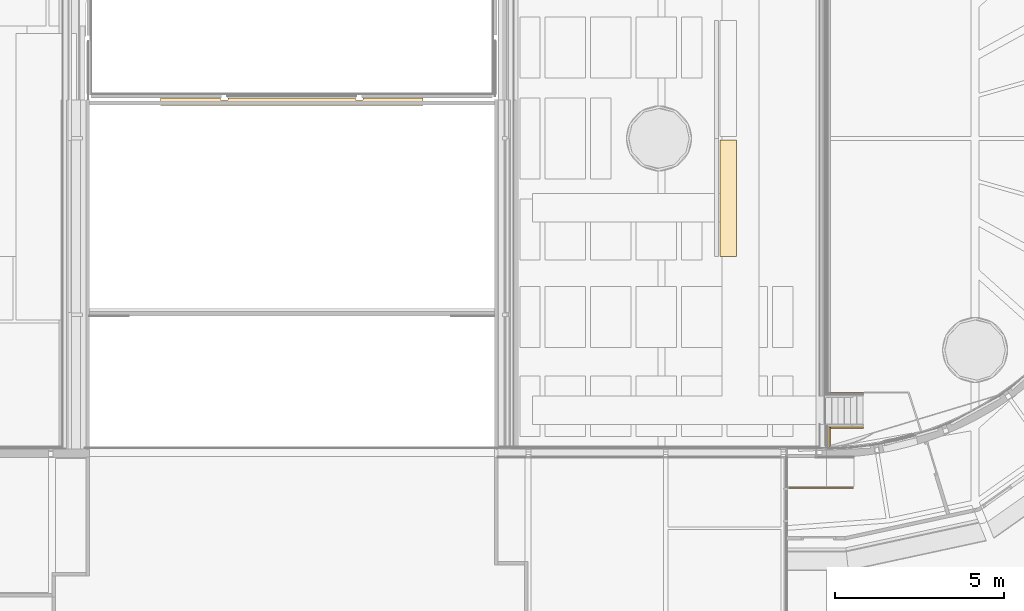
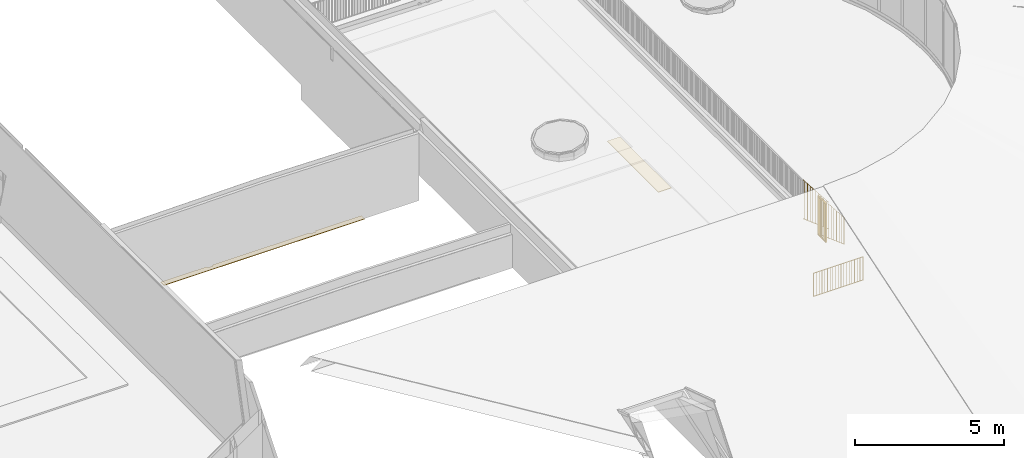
# One storey, part 56 of 66: 4 railings, 2 coverings.
"""IFC2X3 building model written with IfcOpenShell, lengths in millimetres."""

from ifc_helpers import new_model, entity, si_unit, converted_unit, derived_unit, direction, frame, frame_2d, origin, place, context, subcontext, project, spatial, polyline, rectangle, outline, extrude, source, transform, mapped, material, material_list, layer, layer_set, layer_usage, type_object, type_shapes, element, save


model = new_model("IFC2X3")

# Units and contexts
model_context = context("Model", 3, precision=0.01, world=origin(), true_north=direction((6.12303176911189e-17, 1.0)))
body_context = subcontext(model_context, "Body", "Model", "MODEL_VIEW")
ifc_project = project(units=[si_unit("LENGTHUNIT", "METRE", prefix="MILLI"), si_unit("AREAUNIT", "SQUARE_METRE"), si_unit("VOLUMEUNIT", "CUBIC_METRE"), converted_unit("PLANEANGLEUNIT", "DEGREE", entity("IfcRatioMeasure", 0.0174532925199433), si_unit("PLANEANGLEUNIT", "RADIAN"), dimensions=[0, 0, 0, 0, 0, 0, 0]), si_unit("MASSUNIT", "GRAM", prefix="KILO"), derived_unit("MASSDENSITYUNIT", [(si_unit("MASSUNIT", "GRAM", prefix="KILO"), 1), (si_unit("LENGTHUNIT", "METRE"), -3)]), derived_unit("MOMENTOFINERTIAUNIT", [(si_unit("LENGTHUNIT", "METRE"), 4)]), si_unit("TIMEUNIT", "SECOND"), si_unit("FREQUENCYUNIT", "HERTZ"), si_unit("THERMODYNAMICTEMPERATUREUNIT", "DEGREE_CELSIUS"), derived_unit("THERMALTRANSMITTANCEUNIT", [(si_unit("MASSUNIT", "GRAM", prefix="KILO"), 1), (si_unit("THERMODYNAMICTEMPERATUREUNIT", "KELVIN"), -1), (si_unit("TIMEUNIT", "SECOND"), -3)]), derived_unit("VOLUMETRICFLOWRATEUNIT", [(si_unit("LENGTHUNIT", "METRE"), 3), (si_unit("TIMEUNIT", "SECOND"), -1)]), si_unit("ELECTRICCURRENTUNIT", "AMPERE"), si_unit("ELECTRICVOLTAGEUNIT", "VOLT"), si_unit("POWERUNIT", "WATT"), si_unit("FORCEUNIT", "NEWTON", prefix="KILO"), si_unit("ILLUMINANCEUNIT", "LUX"), si_unit("LUMINOUSFLUXUNIT", "LUMEN"), si_unit("LUMINOUSINTENSITYUNIT", "CANDELA"), derived_unit("USERDEFINED", [(si_unit("MASSUNIT", "GRAM", prefix="KILO"), -1), (si_unit("LENGTHUNIT", "METRE"), -2), (si_unit("TIMEUNIT", "SECOND"), 3), (si_unit("LUMINOUSFLUXUNIT", "LUMEN"), 1)]), derived_unit("LINEARVELOCITYUNIT", [(si_unit("LENGTHUNIT", "METRE"), 1), (si_unit("TIMEUNIT", "SECOND"), -1)]), si_unit("PRESSUREUNIT", "PASCAL"), derived_unit("USERDEFINED", [(si_unit("LENGTHUNIT", "METRE"), -2), (si_unit("MASSUNIT", "GRAM", prefix="KILO"), 1), (si_unit("TIMEUNIT", "SECOND"), -2)]), derived_unit("LINEARFORCEUNIT", [(si_unit("MASSUNIT", "GRAM", prefix="KILO"), 1), (si_unit("LENGTHUNIT", "METRE"), 1), (si_unit("TIMEUNIT", "SECOND"), -2), (si_unit("LENGTHUNIT", "METRE"), -1)]), derived_unit("PLANARFORCEUNIT", [(si_unit("MASSUNIT", "GRAM", prefix="KILO"), 1), (si_unit("LENGTHUNIT", "METRE"), 1), (si_unit("TIMEUNIT", "SECOND"), -2), (si_unit("LENGTHUNIT", "METRE"), -2)])], contexts=[model_context])

# Site, building, storey
site_placement = place(None, origin())
site = spatial("IfcSite", under=ifc_project, at=site_placement, Name="Default", CompositionType="ELEMENT")
building_placement = place(site_placement, origin())
building = spatial("IfcBuilding", under=site, at=building_placement, Name="-", CompositionType="ELEMENT")
storey_placement = place(building_placement, frame((0.0, 0.0, 3070.0)))
storey = spatial("IfcBuildingStorey", under=building, at=storey_placement, Name="01 eerste verdieping", CompositionType="ELEMENT", Elevation=3070.00000000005)

# Coverings
ifc_material_1 = material(Name="NLRS_m1_systeemplafond 600x600mm")
ifc_layer_1 = layer(ifc_material_1, 20.0)
ifc_layer_set_1 = layer_set([ifc_layer_1], Name="Compound Ceiling:NLRS_45_CEI_systeemplafond 600x600mm_dikte 20mm_gen_aly")
ifc_layer_usage_1 = layer_usage(ifc_layer_set_1, "AXIS3", "POSITIVE", 0.0)
covering_type_1 = type_object("IfcCoveringType", Name="Compound Ceiling:NLRS_45_CEI_systeemplafond 600x600mm_dikte 20mm_gen_aly", PredefinedType="CEILING")
covering_1_placement = place(storey_placement, origin())
element("IfcCovering", 1, at=covering_1_placement, inside=storey, type_object=covering_type_1, material=ifc_layer_usage_1, Name="Compound Ceiling:NLRS_45_CEI_systeemplafond 600x600mm_dikte 20mm_gen_aly", ObjectType="Compound Ceiling:NLRS_45_CEI_systeemplafond 600x600mm_dikte 20mm_gen_aly", PredefinedType="CEILING", context=body_context, shape_type="SweptSolid", body=[
    extrude(rectangle(XDim=3450.00000000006, YDim=500.000000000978, at=frame_2d((4.32009983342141e-12, 0.0), x_axis=(1.0, 0.0))), frame((47731.6203901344, 17841.0597289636, 950.0), z_axis=(0.0, 0.0, 1.0), x_axis=(0.0, -1.0, 0.0)), (0.0, 0.0, 1.0), 19.9999999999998),
])
ifc_material_2 = material(Name="AL_Multiplex RAL 9002")
ifc_layer_2 = layer(ifc_material_2, 18.0)
ifc_layer_set_2 = layer_set([ifc_layer_2], Name="Floor:NLRS_44_Plaat 18 mm RAL 9002")
ifc_layer_usage_2 = layer_usage(ifc_layer_set_2, "AXIS3", "POSITIVE", 0.0)
covering_type_2 = type_object("IfcCoveringType", Name="Floor:NLRS_44_Plaat 18 mm RAL 9002", PredefinedType="FLOORING", material=ifc_layer_set_2)
covering_2_placement = place(storey_placement, origin())
element("IfcCovering", 2, at=covering_2_placement, inside=storey, type_object=covering_type_2, material=ifc_layer_usage_2, Name="Floor:NLRS_44_Plaat 18 mm RAL 9002", ObjectType="Floor:NLRS_44_Plaat 18 mm RAL 9002", PredefinedType="FLOORING", context=body_context, shape_type="SweptSolid", body=[
    extrude(outline(polyline([(-163.666666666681, -3890.76844227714), (56.3333333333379, -3890.76844227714), (56.3333333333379, -2107.76844227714), (-2.66666666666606, -2107.76844227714), (-2.66666666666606, -1886.46311544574), (56.3333333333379, -1886.46311544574), (56.3333333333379, 1886.23155772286), (-2.66666666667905, 1886.23155772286), (-2.66666666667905, 2107.53688455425), (56.3333333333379, 2107.53688455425), (56.3333333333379, 3891.23155772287), (-163.666666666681, 3891.23155772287), (-163.666666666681, -3890.76844227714)])), frame((34780.1157788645, 20755.9869171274, 245.0), z_axis=(0.0, 0.0, -1.0), x_axis=(0.0, 1.0, 0.0)), (0.0, 0.0, 1.0), 18.0000000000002),
])

# Railings
ifc_material_3 = material(Name="AL_Aluminium antraciet")
railing_type_1 = type_object("IfcRailingType", Name="Leuning voor trap op dak2:Leuning voor trap op dak", PredefinedType="NOTDEFINED", material=ifc_material_3)
shared_shape_1 = source(origin(), body_context, "Body", "SweptSolid", [
    extrude(rectangle(XDim=7.93390615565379, YDim=24.9999999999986, at=frame_2d((-4.33142410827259e-12, 0.0), x_axis=(1.0, 0.0))), frame((51737.8581434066, 11035.5829529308, 3495.0), z_axis=(0.0, 0.0, 1.0), x_axis=(-1.0, 0.0, 0.0)), (0.0, 0.0, 1.0), 1097.98218421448),
    extrude(rectangle(XDim=7.93390615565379, YDim=24.9999999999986, at=frame_2d((4.33142410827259e-12, 0.0), x_axis=(1.0, 0.0))), frame((51657.0873432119, 11035.5829529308, 3560.12080316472), z_axis=(0.0, 0.0, 1.0), x_axis=(-1.0, 0.0, 0.0)), (0.0, 0.0, 1.0), 1125.03019837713),
    extrude(rectangle(XDim=7.93390615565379, YDim=24.9999999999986, at=frame_2d((-4.33142410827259e-12, 0.0), x_axis=(1.0, 0.0))), frame((51552.0873432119, 11035.5829529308, 3642.687636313), z_axis=(0.0, 0.0, 1.0), x_axis=(-1.0, 0.0, 0.0)), (0.0, 0.0, 1.0), 1176.42330359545),
    extrude(rectangle(XDim=7.93390615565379, YDim=24.9999999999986, at=frame_2d((4.33142410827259e-12, 0.0), x_axis=(1.0, 0.0))), frame((51447.0873432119, 11035.5829529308, 3722.0), z_axis=(0.0, 0.0, 1.0), x_axis=(-1.0, 0.0, 0.0)), (0.0, 0.0, 1.0), 1231.070878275),
    extrude(rectangle(XDim=7.93390615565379, YDim=24.9999999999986, at=frame_2d((-4.33142410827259e-12, 0.0), x_axis=(1.0, 0.0))), frame((51342.0873432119, 11035.5829529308, 3802.82130260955), z_axis=(0.0, 0.0, 1.0), x_axis=(-1.0, 0.0, 0.0)), (0.0, 0.0, 1.0), 1284.2095140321),
    extrude(rectangle(XDim=7.93390615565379, YDim=24.9999999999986, at=frame_2d((4.33142410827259e-12, 0.0), x_axis=(1.0, 0.0))), frame((51237.0873432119, 11035.5829529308, 3884.54174036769), z_axis=(0.0, 0.0, 1.0), x_axis=(-1.0, 0.0, 0.0)), (0.0, 0.0, 1.0), 1336.44901464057),
    extrude(rectangle(XDim=7.93390615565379, YDim=24.9999999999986, at=frame_2d((-4.33142410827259e-12, 0.0), x_axis=(1.0, 0.0))), frame((51132.0873432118, 11035.5829529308, 3962.9549689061), z_axis=(0.0, 0.0, 1.0), x_axis=(-1.0, 0.0, 0.0)), (0.0, 0.0, 1.0), 1391.99572446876),
    extrude(rectangle(XDim=7.93390615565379, YDim=24.9999999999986, at=frame_2d((4.33142410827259e-12, 0.0), x_axis=(1.0, 0.0))), frame((51027.0873432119, 11035.5829529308, 4047.0), z_axis=(0.0, 0.0, 1.0), x_axis=(-1.0, 0.0, 0.0)), (0.0, 0.0, 1.0), 1441.91063174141),
    extrude(rectangle(XDim=7.93390615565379, YDim=24.9999999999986, at=frame_2d((-4.33142410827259e-12, 0.0), x_axis=(1.0, 0.0))), frame((50922.0873432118, 11035.5829529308, 4128.08863520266), z_axis=(0.0, 0.0, 1.0), x_axis=(-1.0, 0.0, 0.0)), (0.0, 0.0, 1.0), 1494.78193490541),
    extrude(rectangle(XDim=7.93390615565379, YDim=24.9999999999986, at=frame_2d((4.33142410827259e-12, 0.0), x_axis=(1.0, 0.0))), frame((50817.0873432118, 11035.5829529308, 4210.65546835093), z_axis=(0.0, 0.0, 1.0), x_axis=(-1.0, 0.0, 0.0)), (0.0, 0.0, 1.0), 1546.17504012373),
    extrude(rectangle(XDim=12.9999999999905, YDim=39.9999999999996, at=frame_2d((0.0, 3.34399175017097e-13), x_axis=(0.0, 1.0))), frame((51736.7361725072, 11035.5829529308, 4589.00983425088), z_axis=(-0.616897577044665, 0.0, 0.787043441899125), x_axis=(0.0, -1.0, 0.0)), (0.0, 0.0, 1.0), 1578.05774609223),
    extrude(rectangle(XDim=12.9999999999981, YDim=39.9999999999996, at=frame_2d((4.14512868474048e-12, 0.0), x_axis=(1.0, 0.0))), frame((50762.0873432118, 11035.5829529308, 4250.14910509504), z_axis=(0.792170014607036, 0.0, -0.610300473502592), x_axis=(0.610300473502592, 0.0, 0.792170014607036)), (0.0, 0.0, 1.0), 1228.90286434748),
])
type_shapes(railing_type_1, [shared_shape_1])
railing_1_placement = place(storey_placement, frame((0.0, 0.0, -3070.0)))
element("IfcRailing", 3, at=railing_1_placement, inside=storey, type_object=railing_type_1, material=ifc_material_3, Name="Leuning voor trap op dak2:Leuning voor trap op dak", ObjectType="Leuning voor trap op dak2:Leuning voor trap op dak", PredefinedType="NOTDEFINED", context=body_context, shape_type="MappedRepresentation", body=[
    mapped(shared_shape_1, transform((0.0, 0.0, 0.0), scale=1.0)),
])
railing_type_2 = type_object("IfcRailingType", Name="Leuning voor trap op dak3:Leuning voor trap op dak", PredefinedType="NOTDEFINED", material=ifc_material_3)
shared_shape_2 = source(origin(), body_context, "Body", "SweptSolid", [
    extrude(rectangle(XDim=7.93390615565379, YDim=24.9999999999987, at=frame_2d((-4.33142410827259e-12, -2.16626716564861e-12), x_axis=(1.0, 0.0))), frame((51657.0873432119, 27135.5829529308, 3560.12080316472), z_axis=(0.0, 0.0, 1.0), x_axis=(-1.0, 0.0, 0.0)), (0.0, 0.0, 1.0), 1125.03019837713),
    extrude(rectangle(XDim=7.93390615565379, YDim=24.9999999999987, at=frame_2d((4.33142410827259e-12, -2.16626716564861e-12), x_axis=(1.0, 0.0))), frame((51552.0873432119, 27135.5829529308, 3642.687636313), z_axis=(0.0, 0.0, 1.0), x_axis=(-1.0, 0.0, 0.0)), (0.0, 0.0, 1.0), 1176.42330359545),
    extrude(rectangle(XDim=7.93390615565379, YDim=24.9999999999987, at=frame_2d((-4.33142410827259e-12, -2.16626716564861e-12), x_axis=(1.0, 0.0))), frame((51447.0873432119, 27135.5829529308, 3722.0), z_axis=(0.0, 0.0, 1.0), x_axis=(-1.0, 0.0, 0.0)), (0.0, 0.0, 1.0), 1231.070878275),
    extrude(rectangle(XDim=7.93390615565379, YDim=24.9999999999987, at=frame_2d((4.33142410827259e-12, -2.16626716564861e-12), x_axis=(1.0, 0.0))), frame((51342.0873432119, 27135.5829529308, 3802.82130260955), z_axis=(0.0, 0.0, 1.0), x_axis=(-1.0, 0.0, 0.0)), (0.0, 0.0, 1.0), 1284.2095140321),
    extrude(rectangle(XDim=7.93390615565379, YDim=24.9999999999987, at=frame_2d((-4.33142410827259e-12, -2.16626716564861e-12), x_axis=(1.0, 0.0))), frame((51237.0873432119, 27135.5829529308, 3884.54174036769), z_axis=(0.0, 0.0, 1.0), x_axis=(-1.0, 0.0, 0.0)), (0.0, 0.0, 1.0), 1336.44901464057),
    extrude(rectangle(XDim=7.93390615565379, YDim=24.9999999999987, at=frame_2d((4.33142410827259e-12, -2.16626716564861e-12), x_axis=(1.0, 0.0))), frame((51132.0873432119, 27135.5829529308, 3962.9549689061), z_axis=(0.0, 0.0, 1.0), x_axis=(-1.0, 0.0, 0.0)), (0.0, 0.0, 1.0), 1391.99572446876),
    extrude(rectangle(XDim=7.93390615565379, YDim=24.9999999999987, at=frame_2d((-4.33142410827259e-12, -2.16626716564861e-12), x_axis=(1.0, 0.0))), frame((51027.0873432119, 27135.5829529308, 4047.0), z_axis=(0.0, 0.0, 1.0), x_axis=(-1.0, 0.0, 0.0)), (0.0, 0.0, 1.0), 1441.91063174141),
    extrude(rectangle(XDim=7.93390615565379, YDim=24.9999999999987, at=frame_2d((4.33142410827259e-12, -2.16626716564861e-12), x_axis=(1.0, 0.0))), frame((50922.0873432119, 27135.5829529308, 4128.08863520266), z_axis=(0.0, 0.0, 1.0), x_axis=(-1.0, 0.0, 0.0)), (0.0, 0.0, 1.0), 1494.78193490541),
    extrude(rectangle(XDim=7.93390615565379, YDim=24.9999999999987, at=frame_2d((-4.33142410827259e-12, -2.16626716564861e-12), x_axis=(1.0, 0.0))), frame((50817.0873432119, 27135.5829529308, 4210.65546835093), z_axis=(0.0, 0.0, 1.0), x_axis=(-1.0, 0.0, 0.0)), (0.0, 0.0, 1.0), 1546.17504012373),
    extrude(rectangle(XDim=12.9999999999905, YDim=39.9999999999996, at=frame_2d((0.0, -1.66977542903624e-13), x_axis=(0.0, 1.0))), frame((51736.7361725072, 27135.5829529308, 4589.00983425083), z_axis=(-0.616897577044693, 0.0, 0.787043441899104), x_axis=(0.0, -1.0, 0.0)), (0.0, 0.0, 1.0), 1578.05774609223),
    extrude(rectangle(XDim=12.9999999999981, YDim=39.9999999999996, at=frame_2d((-1.00048858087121e-11, 4.33253433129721e-12), x_axis=(1.0, 0.0))), frame((50762.0873432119, 27135.5829529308, 4250.14910509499), z_axis=(0.792170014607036, 0.0, -0.610300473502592), x_axis=(0.610300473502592, 0.0, 0.792170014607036)), (0.0, 0.0, 1.0), 1228.90286434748),
])
type_shapes(railing_type_2, [shared_shape_2])
railing_2_placement = place(storey_placement, frame((0.0, -15059.1863564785, -3070.0)))
element("IfcRailing", 4, at=railing_2_placement, inside=storey, type_object=railing_type_2, material=ifc_material_3, Name="Leuning voor trap op dak3:Leuning voor trap op dak", ObjectType="Leuning voor trap op dak3:Leuning voor trap op dak", PredefinedType="NOTDEFINED", context=body_context, shape_type="MappedRepresentation", body=[
    mapped(shared_shape_2, transform((0.0, 0.0, 0.0), scale=1.0)),
])
railing_3_placement = place(storey_placement, origin())
element("IfcRailing", 5, at=railing_3_placement, inside=storey, material=ifc_material_3, Name="Railing:NLRS_34_RAI_UN_spijlen binnen", ObjectType="Railing:NLRS_34_RAI_UN_spijlen binnen", PredefinedType="NOTDEFINED", context=body_context, shape_type="SweptSolid", body=[
    extrude(rectangle(XDim=9.99999999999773, YDim=24.9999999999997, at=frame_2d((0.0, 5.41788836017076e-13), x_axis=(1.0, 0.0))), frame((51426.6474723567, 9245.43690982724, 150.0)), (0.0, 0.0, 1.0), 950.0),
    extrude(rectangle(XDim=9.99999999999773, YDim=24.9999999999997, at=frame_2d((0.0, -5.41788836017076e-13), x_axis=(1.0, 0.0))), frame((51321.6474723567, 9245.43690982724, 150.0)), (0.0, 0.0, 1.0), 950.0),
    extrude(rectangle(XDim=9.99999999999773, YDim=24.9999999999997, at=frame_2d((0.0, -5.41788836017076e-13), x_axis=(1.0, 0.0))), frame((51216.6474723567, 9245.43690982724, 150.0)), (0.0, 0.0, 1.0), 950.0),
    extrude(rectangle(XDim=9.99999999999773, YDim=24.9999999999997, at=frame_2d((0.0, -5.41788836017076e-13), x_axis=(1.0, 0.0))), frame((51111.6474723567, 9245.43690982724, 150.0)), (0.0, 0.0, 1.0), 950.0),
    extrude(rectangle(XDim=9.99999999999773, YDim=24.9999999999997, at=frame_2d((0.0, -5.41788836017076e-13), x_axis=(1.0, 0.0))), frame((51006.6474723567, 9245.43690982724, 150.0)), (0.0, 0.0, 1.0), 950.0),
    extrude(rectangle(XDim=9.99999999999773, YDim=24.9999999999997, at=frame_2d((0.0, -5.41788836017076e-13), x_axis=(1.0, 0.0))), frame((50901.6474723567, 9245.43690982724, 150.0)), (0.0, 0.0, 1.0), 950.0),
    extrude(rectangle(XDim=9.99999999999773, YDim=24.9999999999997, at=frame_2d((0.0, -5.41788836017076e-13), x_axis=(1.0, 0.0))), frame((50796.6474723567, 9245.43690982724, 150.0)), (0.0, 0.0, 1.0), 950.0),
    extrude(rectangle(XDim=9.99999999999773, YDim=24.9999999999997, at=frame_2d((0.0, -5.41788836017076e-13), x_axis=(1.0, 0.0))), frame((50691.6474723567, 9245.43690982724, 150.0)), (0.0, 0.0, 1.0), 950.0),
    extrude(rectangle(XDim=9.99999999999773, YDim=24.9999999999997, at=frame_2d((0.0, -5.41788836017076e-13), x_axis=(1.0, 0.0))), frame((50586.6474723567, 9245.43690982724, 150.0)), (0.0, 0.0, 1.0), 950.0),
    extrude(rectangle(XDim=9.99999999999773, YDim=24.9999999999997, at=frame_2d((0.0, -5.41788836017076e-13), x_axis=(1.0, 0.0))), frame((50481.6474723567, 9245.43690982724, 150.0)), (0.0, 0.0, 1.0), 950.0),
    extrude(rectangle(XDim=9.99999999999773, YDim=24.9999999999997, at=frame_2d((0.0, -5.41788836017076e-13), x_axis=(1.0, 0.0))), frame((50376.6474723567, 9245.43690982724, 150.0)), (0.0, 0.0, 1.0), 950.0),
    extrude(rectangle(XDim=9.99999999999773, YDim=24.9999999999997, at=frame_2d((0.0, 5.41788836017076e-13), x_axis=(1.0, 0.0))), frame((50271.6474723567, 9245.43690982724, 150.0)), (0.0, 0.0, 1.0), 950.0),
    extrude(rectangle(XDim=9.99999999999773, YDim=24.9999999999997, at=frame_2d((0.0, 5.41788836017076e-13), x_axis=(1.0, 0.0))), frame((50166.6474723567, 9245.43690982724, 150.0)), (0.0, 0.0, 1.0), 950.0),
    extrude(rectangle(XDim=9.99999999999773, YDim=24.9999999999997, at=frame_2d((0.0, 5.41788836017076e-13), x_axis=(1.0, 0.0))), frame((50061.6474723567, 9245.43690982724, 150.0)), (0.0, 0.0, 1.0), 950.0),
    extrude(rectangle(XDim=9.99999999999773, YDim=24.9999999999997, at=frame_2d((0.0, -5.41788836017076e-13), x_axis=(1.0, 0.0))), frame((49956.6474723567, 9245.43690982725, 150.0)), (0.0, 0.0, 1.0), 950.0),
    extrude(rectangle(XDim=9.99999999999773, YDim=24.9999999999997, at=frame_2d((0.0, -5.41788836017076e-13), x_axis=(1.0, 0.0))), frame((49851.6474723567, 9245.43690982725, 150.0)), (0.0, 0.0, 1.0), 950.0),
    extrude(rectangle(XDim=9.99999999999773, YDim=24.9999999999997, at=frame_2d((0.0, -5.41788836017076e-13), x_axis=(1.0, 0.0))), frame((49746.6474723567, 9245.43690982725, 150.0)), (0.0, 0.0, 1.0), 950.0),
    extrude(rectangle(XDim=9.99999999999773, YDim=24.9999999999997, at=frame_2d((0.0, -5.41788836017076e-13), x_axis=(1.0, 0.0))), frame((49641.6474723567, 9245.43690982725, 150.0)), (0.0, 0.0, 1.0), 950.0),
    extrude(rectangle(XDim=9.99999999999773, YDim=24.9999999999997, at=frame_2d((0.0, -5.41788836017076e-13), x_axis=(1.0, 0.0))), frame((49536.6474723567, 9245.43690982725, 150.0)), (0.0, 0.0, 1.0), 950.0),
    extrude(rectangle(XDim=9.99999999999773, YDim=24.9999999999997, at=frame_2d((0.0, 5.41788836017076e-13), x_axis=(1.0, 0.0))), frame((51444.1474723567, 9245.43690982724, 150.0)), (0.0, 0.0, 1.0), 950.0),
    extrude(rectangle(XDim=9.99999999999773, YDim=24.9999999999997, at=frame_2d((0.0, -5.41788836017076e-13), x_axis=(1.0, 0.0))), frame((49519.1474723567, 9245.43690982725, 150.0)), (0.0, 0.0, 1.0), 950.0),
    extrude(rectangle(XDim=1925.0, YDim=39.9999999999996, at=frame_2d((-4.37694325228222e-12, 0.0), x_axis=(1.0, 0.0))), frame((50481.6474723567, 9245.43690982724, 1095.0)), (0.0, 0.0, 1.0), 9.99999999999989),
    extrude(rectangle(XDim=1925.0, YDim=39.9999999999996, at=frame_2d((-4.37694325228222e-12, 0.0), x_axis=(1.0, 0.0))), frame((50481.6474723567, 9245.43690982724, 145.0)), (0.0, 0.0, 1.0), 9.99999999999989),
])
ifc_material_4 = material(Name="AL_Aluminium RAL 7021")
ifc_material_list = material_list([ifc_material_3, ifc_material_4])
railing_4_placement = place(storey_placement, origin())
element("IfcRailing", 6, at=railing_4_placement, inside=storey, material=ifc_material_list, Name="Railing:NLRS_34_RAI_UN_spijlen_gen_aly", ObjectType="Railing:NLRS_34_RAI_UN_spijlen_gen_aly", PredefinedType="NOTDEFINED", context=body_context, shape_type="SweptSolid", body=[
    extrude(rectangle(XDim=9.99999999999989, YDim=49.9999999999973, at=frame_2d((1.0831335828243e-12, 4.33253433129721e-12), x_axis=(1.0, 0.0))), frame((50738.120390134, 11046.2331558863, 1180.0), z_axis=(0.0, 0.0, 1.0), x_axis=(0.0, 1.0, 0.0)), (0.0, 0.0, 1.0), 1577.0),
    extrude(rectangle(XDim=9.99999999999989, YDim=49.9999999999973, at=frame_2d((-1.0831335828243e-12, 4.33253433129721e-12), x_axis=(1.0, 0.0))), frame((50738.120390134, 10936.2331558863, 1180.0), z_axis=(0.0, 0.0, 1.0), x_axis=(0.0, 1.0, 0.0)), (0.0, 0.0, 1.0), 1577.0),
    extrude(rectangle(XDim=9.99999999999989, YDim=49.9999999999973, at=frame_2d((1.0831335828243e-12, 4.33253433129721e-12), x_axis=(1.0, 0.0))), frame((50738.120390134, 10826.2331558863, 1180.0), z_axis=(0.0, 0.0, 1.0), x_axis=(0.0, 1.0, 0.0)), (0.0, 0.0, 1.0), 1577.0),
    extrude(rectangle(XDim=9.99999999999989, YDim=49.9999999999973, at=frame_2d((1.0831335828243e-12, 4.33253433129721e-12), x_axis=(1.0, 0.0))), frame((50738.120390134, 10716.2331558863, 1180.0), z_axis=(0.0, 0.0, 1.0), x_axis=(0.0, 1.0, 0.0)), (0.0, 0.0, 1.0), 1577.0),
    extrude(rectangle(XDim=9.99999999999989, YDim=49.9999999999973, at=frame_2d((1.0831335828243e-12, 4.33253433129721e-12), x_axis=(1.0, 0.0))), frame((50738.120390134, 10606.2331558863, 1180.0), z_axis=(0.0, 0.0, 1.0), x_axis=(0.0, 1.0, 0.0)), (0.0, 0.0, 1.0), 1577.0),
    extrude(rectangle(XDim=9.99999999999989, YDim=49.9999999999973, at=frame_2d((-1.0831335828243e-12, 4.33253433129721e-12), x_axis=(1.0, 0.0))), frame((50738.120390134, 10496.2331558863, 1180.0), z_axis=(0.0, 0.0, 1.0), x_axis=(0.0, 1.0, 0.0)), (0.0, 0.0, 1.0), 1577.0),
    extrude(rectangle(XDim=9.99999999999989, YDim=25.000000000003, at=frame_2d((1.0831335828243e-12, -4.33164615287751e-12), x_axis=(1.0, 0.0))), frame((50738.120390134, 11055.5965964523, 1180.0), z_axis=(0.0, 0.0, 1.0), x_axis=(0.0, 1.0, 0.0)), (0.0, 0.0, 1.0), 1577.0),
    extrude(rectangle(XDim=9.99999999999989, YDim=25.000000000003, at=frame_2d((1.0831335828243e-12, -4.33164615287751e-12), x_axis=(1.0, 0.0))), frame((50738.120390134, 10486.8697153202, 1180.0), z_axis=(0.0, 0.0, 1.0), x_axis=(0.0, 1.0, 0.0)), (0.0, 0.0, 1.0), 1577.0),
    extrude(rectangle(XDim=568.726881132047, YDim=49.9999999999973, at=frame_2d((0.0, -4.33253433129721e-12), x_axis=(1.0, 0.0))), frame((50738.120390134, 10771.2331558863, 2752.0), z_axis=(0.0, 0.0, 1.0), x_axis=(0.0, 1.0, 0.0)), (0.0, 0.0, 1.0), 14.9999999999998),
    extrude(rectangle(XDim=568.726881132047, YDim=49.9999999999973, at=frame_2d((0.0, -4.33253433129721e-12), x_axis=(1.0, 0.0))), frame((50738.120390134, 10771.2331558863, 1175.0), z_axis=(0.0, 0.0, 1.0), x_axis=(0.0, 1.0, 0.0)), (0.0, 0.0, 1.0), 14.9999999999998),
])

save(model, "model.ifc")
